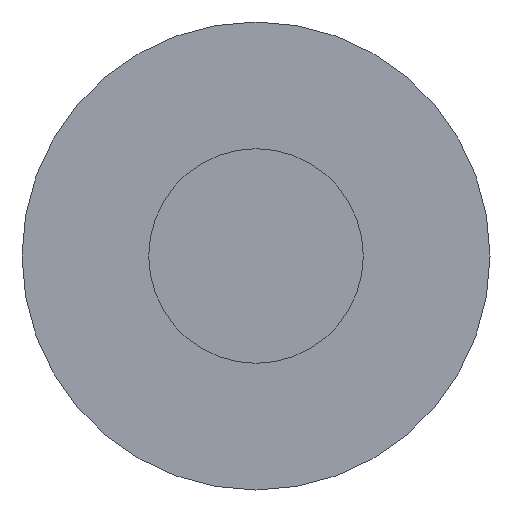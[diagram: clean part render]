
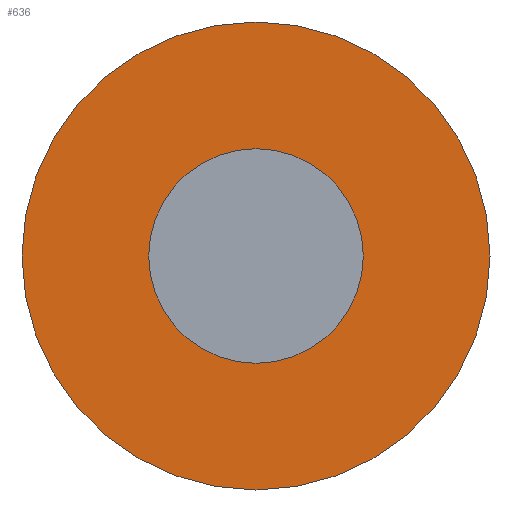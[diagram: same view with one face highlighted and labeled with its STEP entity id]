
A CAD part, front view. The second image highlights one B-rep face of the part: STEP entity #636.
In plain terms, the highlighted planar face has unit normal (0, -1, 0).
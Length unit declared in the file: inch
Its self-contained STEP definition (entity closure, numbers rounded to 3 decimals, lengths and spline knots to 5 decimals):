
#213=CARTESIAN_POINT('',(0.,-0.015,0.));
#214=DIRECTION('',(0.,-1.,0.));
#215=DIRECTION('',(1.,0.,0.));
#216=AXIS2_PLACEMENT_3D('',#213,#214,#215);
#218=CARTESIAN_POINT('',(0.,-0.015,0.));
#219=DIRECTION('',(0.,-1.,0.));
#220=DIRECTION('',(-1.,0.,0.));
#221=AXIS2_PLACEMENT_3D('',#218,#219,#220);
#223=CARTESIAN_POINT('',(0.,-0.015,0.));
#224=DIRECTION('',(0.,-1.,0.));
#225=DIRECTION('',(1.,0.,0.));
#226=AXIS2_PLACEMENT_3D('',#223,#224,#225);
#228=CARTESIAN_POINT('',(0.,-0.015,0.));
#229=DIRECTION('',(0.,-1.,0.));
#230=DIRECTION('',(-1.,0.,0.));
#231=AXIS2_PLACEMENT_3D('',#228,#229,#230);
#577=CARTESIAN_POINT('',(0.1505,-0.015,0.));
#578=CARTESIAN_POINT('',(-0.1505,-0.015,0.));
#579=VERTEX_POINT('',#577);
#580=VERTEX_POINT('',#578);
#581=CARTESIAN_POINT('',(0.069,-0.015,0.));
#582=CARTESIAN_POINT('',(-0.069,-0.015,0.));
#583=VERTEX_POINT('',#581);
#584=VERTEX_POINT('',#582);
#620=CARTESIAN_POINT('',(0.,-0.015,0.));
#621=DIRECTION('',(0.,-1.,0.));
#622=DIRECTION('',(1.,0.,0.));
#623=AXIS2_PLACEMENT_3D('',#620,#621,#622);
#624=PLANE('',#623);
#626=ORIENTED_EDGE('',*,*,#625,.F.);
#628=ORIENTED_EDGE('',*,*,#627,.F.);
#629=EDGE_LOOP('',(#626,#628));
#630=FACE_OUTER_BOUND('',#629,.F.);
#631=ORIENTED_EDGE('',*,*,#610,.T.);
#633=ORIENTED_EDGE('',*,*,#632,.T.);
#634=EDGE_LOOP('',(#631,#633));
#635=FACE_BOUND('',#634,.F.);
#217=CIRCLE('',#216,0.1505);
#222=CIRCLE('',#221,0.1505);
#227=CIRCLE('',#226,0.069);
#232=CIRCLE('',#231,0.069);
#610=EDGE_CURVE('',#583,#584,#227,.T.);
#625=EDGE_CURVE('',#579,#580,#217,.T.);
#627=EDGE_CURVE('',#580,#579,#222,.T.);
#632=EDGE_CURVE('',#584,#583,#232,.T.);
#636=ADVANCED_FACE('',(#630,#635),#624,.T.);
